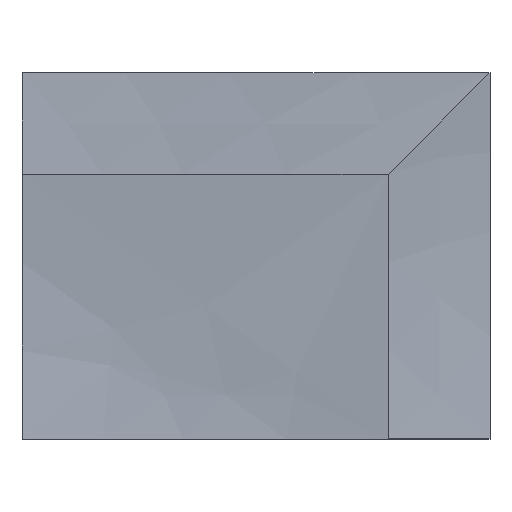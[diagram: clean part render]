
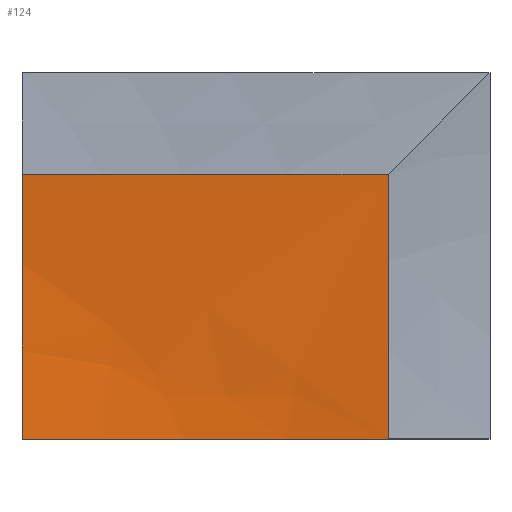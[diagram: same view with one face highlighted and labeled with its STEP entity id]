
A CAD part, top view. The second image highlights one B-rep face of the part: STEP entity #124.
In plain terms, the highlighted free-form (B-spline) face has degree [3, 3] with [5, 10] control points.
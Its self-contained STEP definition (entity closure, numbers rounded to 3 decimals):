
#124=ADVANCED_FACE('',(#153),#405,.T.);
#153=FACE_OUTER_BOUND('',#182,.T.);
#182=EDGE_LOOP('',(#259,#260,#261,#262));
#259=ORIENTED_EDGE('',*,*,#322,.T.);
#260=ORIENTED_EDGE('',*,*,#321,.F.);
#261=ORIENTED_EDGE('',*,*,#320,.F.);
#262=ORIENTED_EDGE('',*,*,#313,.T.);
#313=EDGE_CURVE('',#389,#390,#361,.T.);
#320=EDGE_CURVE('',#389,#391,#368,.T.);
#321=EDGE_CURVE('',#391,#392,#369,.T.);
#322=EDGE_CURVE('',#390,#392,#370,.T.);
#361=B_SPLINE_CURVE_WITH_KNOTS('',1,(#676,#677),.UNSPECIFIED.,.F.,.F.,(2,
2),(0.,780.),.UNSPECIFIED.);
#368=B_SPLINE_CURVE_WITH_KNOTS('',3,(#690,#691,#692,#693,#694),
 .UNSPECIFIED.,.F.,.F.,(4,1,4),(0.,541.508,1083.016),
 .UNSPECIFIED.);
#369=B_SPLINE_CURVE_WITH_KNOTS('',3,(#695,#696,#697,#698,#699,#700,#701,
#702,#703,#704),.UNSPECIFIED.,.F.,.F.,(4,2,2,2,4),(-780.682,-585.512,
-390.341,-195.171,0.),.UNSPECIFIED.);
#370=B_SPLINE_CURVE_WITH_KNOTS('',3,(#705,#706,#707,#708,#709),
 .UNSPECIFIED.,.F.,.F.,(4,1,4),(0.,541.508,1083.016),
 .UNSPECIFIED.);
#389=VERTEX_POINT('',#666);
#390=VERTEX_POINT('',#667);
#391=VERTEX_POINT('',#668);
#392=VERTEX_POINT('',#669);
#405=B_SPLINE_SURFACE_WITH_KNOTS('',3,3,((#614,#615,#616,#617,#618,#619,
#620,#621,#622,#623),(#624,#625,#626,#627,#628,#629,#630,#631,#632,#633),
(#634,#635,#636,#637,#638,#639,#640,#641,#642,#643),(#644,#645,#646,#647,
#648,#649,#650,#651,#652,#653),(#654,#655,#656,#657,#658,#659,#660,#661,
#662,#663)),.UNSPECIFIED.,.F.,.F.,.F.,(4,1,4),(4,2,2,2,4),(0.,541.508,
1083.016),(0.,195.171,390.341,585.512,
780.682),.UNSPECIFIED.);
#614=CARTESIAN_POINT('',(5858.749,-1080.,420.));
#615=CARTESIAN_POINT('',(5858.749,-1015.,420.));
#616=CARTESIAN_POINT('',(5858.749,-950.,420.));
#617=CARTESIAN_POINT('',(5858.749,-820.,420.));
#618=CARTESIAN_POINT('',(5858.749,-755.,420.));
#619=CARTESIAN_POINT('',(5858.749,-625.,420.));
#620=CARTESIAN_POINT('',(5858.749,-560.,420.));
#621=CARTESIAN_POINT('',(5858.749,-430.,420.));
#622=CARTESIAN_POINT('',(5858.749,-365.,420.));
#623=CARTESIAN_POINT('',(5858.749,-300.,420.));
#624=CARTESIAN_POINT('',(5680.232,-1080.,393.301));
#625=CARTESIAN_POINT('',(5680.399,-1014.81,392.203));
#626=CARTESIAN_POINT('',(5680.418,-949.601,393.047));
#627=CARTESIAN_POINT('',(5680.209,-819.335,396.953));
#628=CARTESIAN_POINT('',(5679.986,-754.28,400.013));
#629=CARTESIAN_POINT('',(5679.49,-624.354,406.684));
#630=CARTESIAN_POINT('',(5679.225,-559.485,410.294));
#631=CARTESIAN_POINT('',(5678.851,-429.789,416.399));
#632=CARTESIAN_POINT('',(5678.747,-364.961,418.893));
#633=CARTESIAN_POINT('',(5678.749,-300.,420.));
#634=CARTESIAN_POINT('',(5318.749,-1080.,365.936));
#635=CARTESIAN_POINT('',(5319.087,-1014.653,362.614));
#636=CARTESIAN_POINT('',(5319.314,-949.238,363.5));
#637=CARTESIAN_POINT('',(5319.453,-818.691,370.314));
#638=CARTESIAN_POINT('',(5319.376,-753.561,376.242));
#639=CARTESIAN_POINT('',(5319.122,-623.673,389.764));
#640=CARTESIAN_POINT('',(5318.962,-558.919,397.358));
#641=CARTESIAN_POINT('',(5318.767,-429.526,410.815));
#642=CARTESIAN_POINT('',(5318.744,-364.884,416.679));
#643=CARTESIAN_POINT('',(5318.749,-300.,420.));
#644=CARTESIAN_POINT('',(4957.266,-1080.,393.301));
#645=CARTESIAN_POINT('',(4957.433,-1014.963,387.755));
#646=CARTESIAN_POINT('',(4957.638,-949.79,385.254));
#647=CARTESIAN_POINT('',(4957.984,-819.487,384.7));
#648=CARTESIAN_POINT('',(4958.132,-754.356,386.645));
#649=CARTESIAN_POINT('',(4958.377,-624.278,393.33));
#650=CARTESIAN_POINT('',(4958.484,-559.333,398.069));
#651=CARTESIAN_POINT('',(4958.665,-429.6,408.636));
#652=CARTESIAN_POINT('',(4958.747,-364.811,414.464));
#653=CARTESIAN_POINT('',(4958.749,-300.,420.));
#654=CARTESIAN_POINT('',(4778.749,-1080.,420.));
#655=CARTESIAN_POINT('',(4778.749,-1015.228,413.357));
#656=CARTESIAN_POINT('',(4778.749,-950.283,408.357));
#657=CARTESIAN_POINT('',(4778.749,-820.228,401.679));
#658=CARTESIAN_POINT('',(4778.749,-755.114,400.));
#659=CARTESIAN_POINT('',(4778.749,-624.886,400.));
#660=CARTESIAN_POINT('',(4778.749,-559.773,401.679));
#661=CARTESIAN_POINT('',(4778.749,-429.717,408.357));
#662=CARTESIAN_POINT('',(4778.749,-364.775,413.356));
#663=CARTESIAN_POINT('',(4778.749,-300.,420.));
#666=CARTESIAN_POINT('',(5858.749,-300.,420.));
#667=CARTESIAN_POINT('',(5858.749,-1080.,420.));
#668=CARTESIAN_POINT('',(4778.749,-300.,420.));
#669=CARTESIAN_POINT('',(4778.749,-1080.,420.));
#676=CARTESIAN_POINT('',(5858.749,-300.,420.));
#677=CARTESIAN_POINT('',(5858.749,-1080.,420.));
#690=CARTESIAN_POINT('',(5858.749,-300.,420.));
#691=CARTESIAN_POINT('',(5678.749,-300.,420.));
#692=CARTESIAN_POINT('',(5318.749,-300.,420.));
#693=CARTESIAN_POINT('',(4958.749,-300.,420.));
#694=CARTESIAN_POINT('',(4778.749,-300.,420.));
#695=CARTESIAN_POINT('',(4778.749,-300.,420.));
#696=CARTESIAN_POINT('',(4778.749,-364.775,413.356));
#697=CARTESIAN_POINT('',(4778.749,-429.717,408.357));
#698=CARTESIAN_POINT('',(4778.749,-559.773,401.679));
#699=CARTESIAN_POINT('',(4778.749,-624.886,400.));
#700=CARTESIAN_POINT('',(4778.749,-755.114,400.));
#701=CARTESIAN_POINT('',(4778.749,-820.228,401.679));
#702=CARTESIAN_POINT('',(4778.749,-950.283,408.357));
#703=CARTESIAN_POINT('',(4778.749,-1015.228,413.357));
#704=CARTESIAN_POINT('',(4778.749,-1080.,420.));
#705=CARTESIAN_POINT('',(5858.749,-1080.,420.));
#706=CARTESIAN_POINT('',(5680.232,-1080.,393.301));
#707=CARTESIAN_POINT('',(5318.749,-1080.,365.936));
#708=CARTESIAN_POINT('',(4957.266,-1080.,393.301));
#709=CARTESIAN_POINT('',(4778.749,-1080.,420.));
